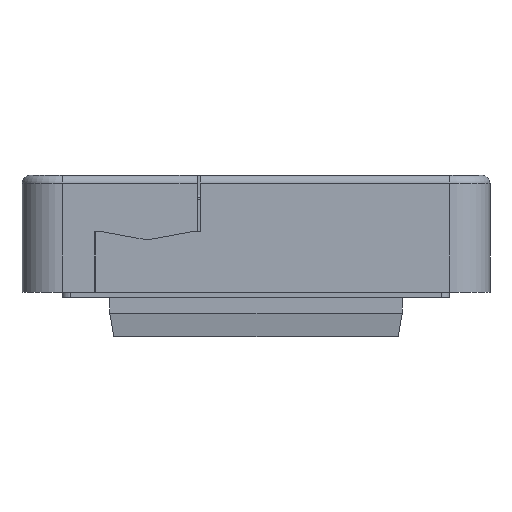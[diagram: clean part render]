
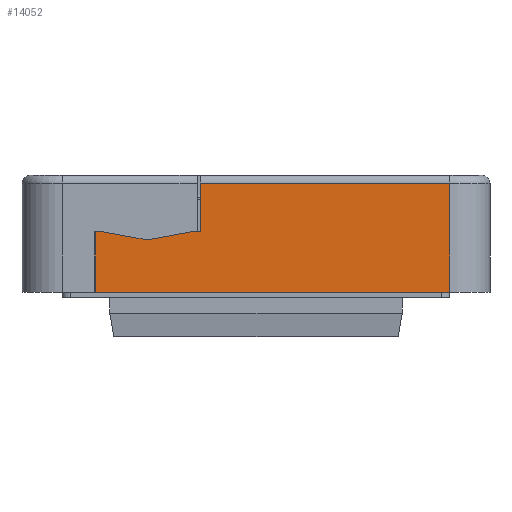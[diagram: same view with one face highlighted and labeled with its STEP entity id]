
A CAD part, left-side view. The second image highlights one B-rep face of the part: STEP entity #14052.
In plain terms, the highlighted planar face has unit normal (-1, 0, 0) as drawn and (1, 0, 0) by its records, which use the part's own axes.
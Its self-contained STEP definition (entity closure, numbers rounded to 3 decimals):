
#1746=FACE_OUTER_BOUND('',#2528,.T.);
#2528=EDGE_LOOP('',(#11527,#11528,#11529,#11530,#11531,#11532,#11533,#11534,
#11535));
#3734=LINE('',#22076,#5170);
#3740=LINE('',#22088,#5176);
#3743=LINE('',#22094,#5179);
#3744=LINE('',#22096,#5180);
#3745=LINE('',#22098,#5181);
#3746=LINE('',#22100,#5182);
#3747=LINE('',#22102,#5183);
#3748=LINE('',#22104,#5184);
#3749=LINE('',#22105,#5185);
#5170=VECTOR('',#17634,10.);
#5176=VECTOR('',#17642,10.);
#5179=VECTOR('',#17647,10.);
#5180=VECTOR('',#17648,10.);
#5181=VECTOR('',#17649,10.);
#5182=VECTOR('',#17650,10.);
#5183=VECTOR('',#17651,10.);
#5184=VECTOR('',#17652,10.);
#5185=VECTOR('',#17653,10.);
#6549=VERTEX_POINT('',#22074);
#6550=VERTEX_POINT('',#22075);
#6555=VERTEX_POINT('',#22087);
#6557=VERTEX_POINT('',#22093);
#6558=VERTEX_POINT('',#22095);
#6559=VERTEX_POINT('',#22097);
#6560=VERTEX_POINT('',#22099);
#6561=VERTEX_POINT('',#22101);
#6562=VERTEX_POINT('',#22103);
#8301=EDGE_CURVE('',#6549,#6550,#3734,.T.);
#8307=EDGE_CURVE('',#6555,#6549,#3740,.T.);
#8310=EDGE_CURVE('',#6557,#6550,#3743,.T.);
#8311=EDGE_CURVE('',#6558,#6557,#3744,.T.);
#8312=EDGE_CURVE('',#6559,#6558,#3745,.T.);
#8313=EDGE_CURVE('',#6559,#6560,#3746,.T.);
#8314=EDGE_CURVE('',#6560,#6561,#3747,.T.);
#8315=EDGE_CURVE('',#6561,#6562,#3748,.T.);
#8316=EDGE_CURVE('',#6562,#6555,#3749,.T.);
#11527=ORIENTED_EDGE('',*,*,#8301,.T.);
#11528=ORIENTED_EDGE('',*,*,#8310,.F.);
#11529=ORIENTED_EDGE('',*,*,#8311,.F.);
#11530=ORIENTED_EDGE('',*,*,#8312,.F.);
#11531=ORIENTED_EDGE('',*,*,#8313,.T.);
#11532=ORIENTED_EDGE('',*,*,#8314,.T.);
#11533=ORIENTED_EDGE('',*,*,#8315,.T.);
#11534=ORIENTED_EDGE('',*,*,#8316,.T.);
#11535=ORIENTED_EDGE('',*,*,#8307,.T.);
#13401=PLANE('',#15092);
#14052=ADVANCED_FACE('',(#1746),#13401,.T.);
#15092=AXIS2_PLACEMENT_3D('',#22092,#17645,#17646);
#17634=DIRECTION('',(0.,0.,1.));
#17642=DIRECTION('',(0.,1.,0.));
#17645=DIRECTION('center_axis',(1.,0.,0.));
#17646=DIRECTION('ref_axis',(0.,0.,-1.));
#17647=DIRECTION('',(0.,1.,0.));
#17648=DIRECTION('',(0.,0.,1.));
#17649=DIRECTION('',(0.,-1.,0.));
#17650=DIRECTION('',(0.,0.,1.));
#17651=DIRECTION('',(0.,1.,0.));
#17652=DIRECTION('',(0.,0.984,0.179));
#17653=DIRECTION('',(0.,0.984,-0.179));
#22074=CARTESIAN_POINT('',(74.,19.9,-8.));
#22075=CARTESIAN_POINT('',(74.,19.9,-0.5));
#22076=CARTESIAN_POINT('',(74.,19.9,-2.554));
#22087=CARTESIAN_POINT('',(74.,19.,-8.));
#22088=CARTESIAN_POINT('',(74.,-3.75,-8.));
#22092=CARTESIAN_POINT('Origin',(74.,-27.5,0.));
#22093=CARTESIAN_POINT('',(74.,-24.,-0.5));
#22094=CARTESIAN_POINT('',(74.,-29.,-0.5));
#22095=CARTESIAN_POINT('',(74.,-24.,-14.));
#22096=CARTESIAN_POINT('',(74.,-24.,-0.25));
#22097=CARTESIAN_POINT('',(74.,6.9,-14.));
#22098=CARTESIAN_POINT('',(74.,-13.75,-14.));
#22099=CARTESIAN_POINT('',(74.,6.9,-8.));
#22100=CARTESIAN_POINT('',(74.,6.9,-5.943));
#22101=CARTESIAN_POINT('',(74.,8.,-8.));
#22102=CARTESIAN_POINT('',(74.,-3.75,-8.));
#22103=CARTESIAN_POINT('',(74.,13.5,-7.));
#22104=CARTESIAN_POINT('',(74.,-5.728,-10.496));
#22105=CARTESIAN_POINT('',(74.,-4.21,-3.78));
